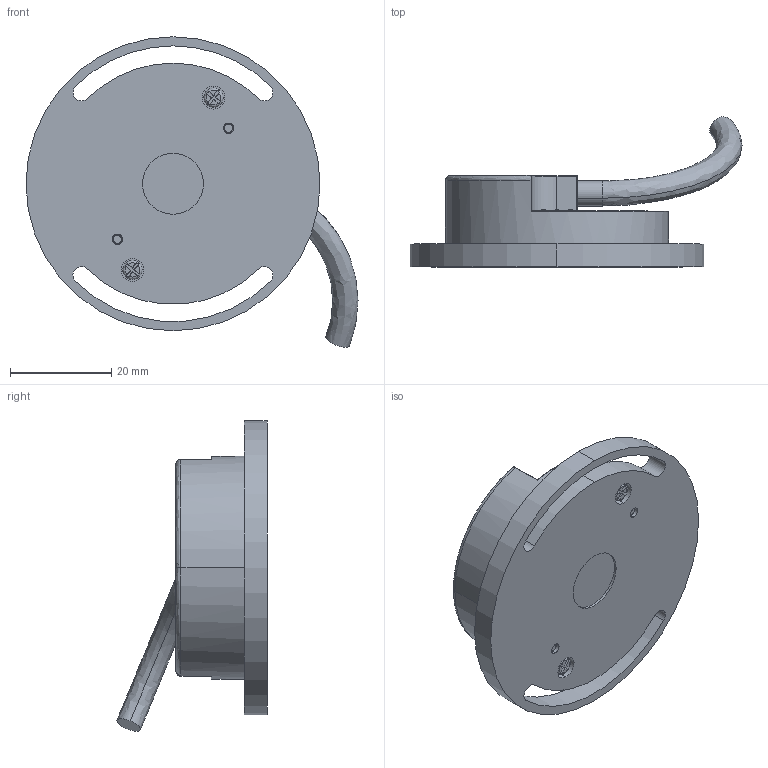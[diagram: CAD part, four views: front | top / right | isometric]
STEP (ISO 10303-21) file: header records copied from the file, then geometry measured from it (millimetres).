
FILE_DESCRIPTION (( 'STEP AP203' ), '1' );
FILE_NAME ('RM58_encoder.STEP', '2019-11-05T09:55:36', ( '' ), ( '' ), 'SwSTEP 2.0', 'SolidWorks 2016', '' );
FILE_SCHEMA (( 'CONFIG_CONTROL_DESIGN' ));
Length unit declared in the file: millimetre
Products named in the file (1): RM58_encoder
Bounding box: 65.5 x 29.64 x 61.25 mm (x, y, z)
Volume: 17023 mm3; surface area: 14840.6 mm2
Topology: 7 solids, 7 shells, 354 faces, 841 edges, 529 vertices
Faces by surface type: plane 146, cylinder 126, cone 50, bspline 32
Entity records: 10854 total; most frequent: CARTESIAN_POINT 2687, DIRECTION 1707, ORIENTED_EDGE 1658, EDGE_CURVE 829, AXIS2_PLACEMENT_3D 653, VERTEX_POINT 529, EDGE_LOOP 412, VECTOR 401
